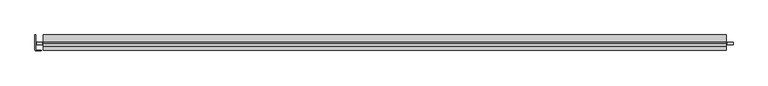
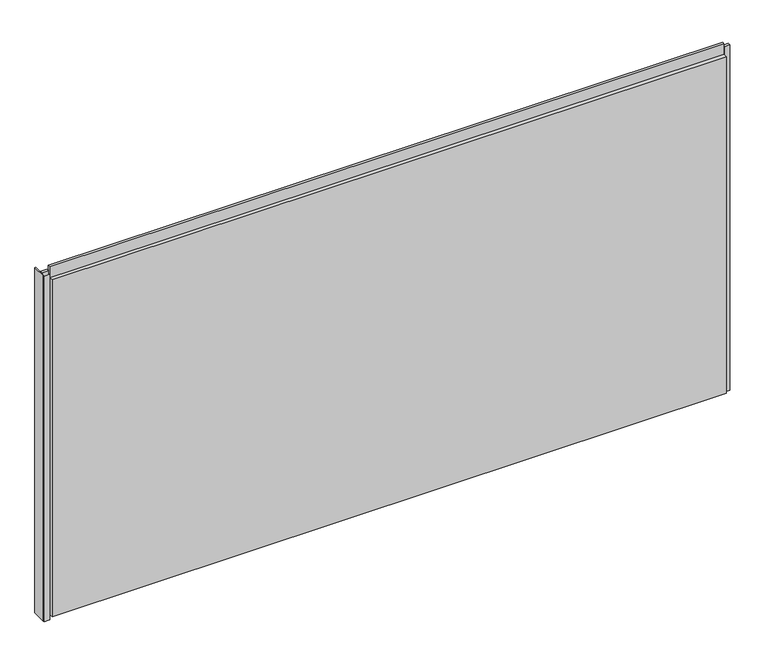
"""IFC4 building model written with IfcOpenShell, lengths in millimetres: plate geometry, Trimo_Qbiss Screen_Normal Panel-HORIZONTAL : HR - B."""

from ifc_helpers import new_model, si_unit, frame, origin, place, context, project, spatial, polyline, outline, extrude, source, transform, mapped, element, save


def plate_eaba8ef4(model_context):
    return source(origin(), model_context, "Body", "SweptSolid", [
        extrude(outline(polyline([(-1119.0, 100.0), (-1119.0, 50.0), (-1101.5, 50.0), (-1101.5, 49.2), (-1119.8, 49.2), (-1119.8, 99.2), (-1120.8, 99.2), (-1120.8, 52.0), (-1121.6, 52.0), (-1121.6, 100.0), (-1119.0, 100.0)])), frame((0.0, 0.0, -1.0), z_axis=(0.0, 0.0, 1.0), x_axis=(1.0, 0.0, 0.0)), (0.0, 0.0, 1.0), 1200.0),
        extrude(outline(polyline([(-1097.0, 76.5978162), (-1097.0, 67.8978162), (-1116.0, 67.8978162), (-1116.0, 76.5978162), (-1097.0, 76.5978162)])), frame((0.0, 0.0, -1.0), z_axis=(0.0, 0.0, 1.0), x_axis=(1.0, 0.0, 0.0)), (0.0, 0.0, 1.0), 1200.0),
        extrude(outline(polyline([(1125.5, 67.8978162), (1125.5, 76.5978162), (1144.5, 76.5978162), (1144.5, 67.8978162), (1125.5, 67.8978162)])), frame((0.0, 0.0, -1.0), z_axis=(0.0, 0.0, 1.0), x_axis=(1.0, 0.0, 0.0)), (0.0, 0.0, 1.0), 1200.0),
        extrude(outline(polyline([(1122.5, 76.0), (1122.5, 71.0), (-1094.0, 71.0), (-1094.0, 76.0), (1122.5, 76.0)])), frame((0.0, 0.0, 1178.0), z_axis=(0.0, 0.0, 1.0), x_axis=(1.0, 0.0, 0.0)), (0.0, 0.0, 1.0), 21.0),
        extrude(outline(polyline([(71.0, 1177.0), (100.0, 1177.0), (100.0, 0.0), (72.0, 0.0), (72.0, 15.5), (62.0, 15.5), (62.0, 7.0), (50.0, 7.0), (50.0, 1177.0), (63.0, 1177.0), (63.0, 1214.5), (71.0, 1214.5), (71.0, 1177.0)])), frame((-1094.0, 0.0, 0.0), z_axis=(1.0, 0.0, 0.0), x_axis=(0.0, 1.0, 0.0)), (0.0, 0.0, 1.0), 2216.5),
    ])


if __name__ == "__main__":
    model = new_model("IFC4")
    model_context = context("Model", 3, world=origin())
    ifc_project = project(units=[si_unit("LENGTHUNIT", "METRE", prefix="MILLI")], contexts=[model_context])
    site = spatial("IfcSite", under=ifc_project)
    building = spatial("IfcBuilding", under=site)
    placement = place(None, origin())
    plate_shape = plate_eaba8ef4(model_context)
    element("IfcPlate", 1, ObjectType="Trimo_Qbiss Screen_Normal Panel-HORIZONTAL : HR - B", at=placement, inside=building, context=model_context, shape_type="MappedRepresentation", body=[
        mapped(plate_shape, transform((0.0, 0.0, 0.0), x_axis=(1.0, 0.0, 0.0), y_axis=(0.0, 1.0, 0.0), z_axis=(0.0, 0.0, 1.0))),
    ])
    save(model, "model.ifc")
